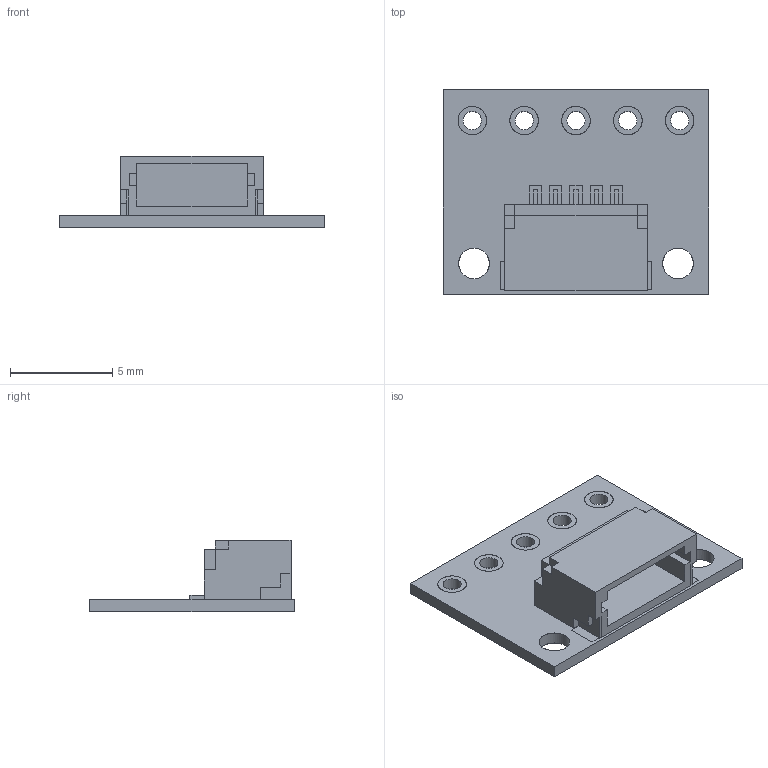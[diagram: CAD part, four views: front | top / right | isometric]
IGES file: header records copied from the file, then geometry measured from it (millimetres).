
Global section: file name: Filename.iges; native system: Open CASCADE 7.4; preprocessor: Open CASCADE IGES processor 7.4; date: 20200812.003849; units: millimetre
Bounding box: 13 x 10 x 3.5 mm (x, y, z)
Surface area: 670.3 mm2 (no closed solid volume)
Topology: 0 solids, 0 shells, 239 faces, 1126 edges, 1072 vertices
Faces by surface type: plane 208, revolution 31
